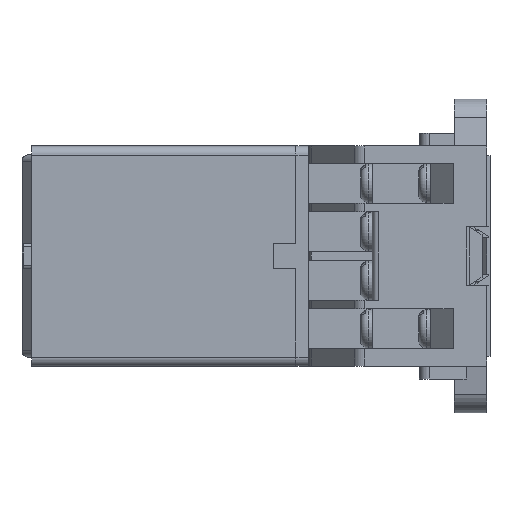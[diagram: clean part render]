
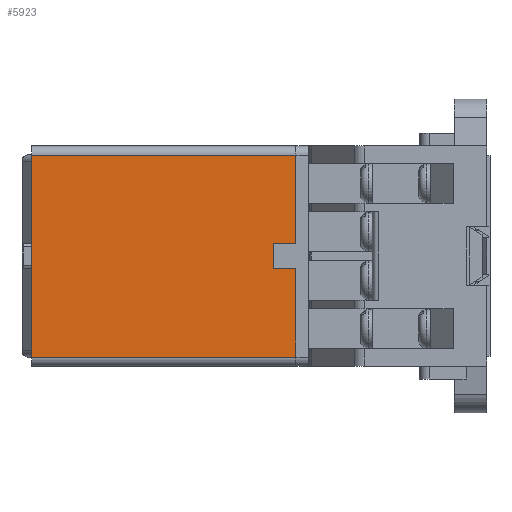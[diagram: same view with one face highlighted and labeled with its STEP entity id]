
A CAD part, left-side view. The second image highlights one B-rep face of the part: STEP entity #5923.
In plain terms, the highlighted planar face has unit normal (-1, 0, 0) as drawn and (1, 0, 0) by its records, which use the part's own axes.
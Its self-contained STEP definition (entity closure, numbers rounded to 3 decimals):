
#5923=ADVANCED_FACE('',(#17315),#17317,.T.);
#17315=FACE_BOUND('',#17316,.T.);
#17316=EDGE_LOOP('',(#26286,#26287,#26288,#26289,#26290,#26291,#26292,#26293));
#17317=PLANE('',#17318);
#17318=AXIS2_PLACEMENT_3D('',#17319,#17320,#17321);
#17319=CARTESIAN_POINT('',(17.5,44.3,-15.6));
#17320=DIRECTION('',(1.,0.,0.));
#17321=DIRECTION('',(0.,0.,1.));
#26286=ORIENTED_EDGE('',*,*,#32314,.T.);
#26287=ORIENTED_EDGE('',*,*,#32303,.F.);
#26288=ORIENTED_EDGE('',*,*,#32333,.F.);
#26289=ORIENTED_EDGE('',*,*,#32334,.T.);
#26290=ORIENTED_EDGE('',*,*,#32335,.T.);
#26291=ORIENTED_EDGE('',*,*,#32295,.F.);
#26292=ORIENTED_EDGE('',*,*,#32318,.T.);
#26293=ORIENTED_EDGE('',*,*,#32316,.T.);
#32295=EDGE_CURVE('',#37075,#37077,#37078,.T.);
#32303=EDGE_CURVE('',#37091,#37093,#37094,.T.);
#32314=EDGE_CURVE('',#37109,#37093,#37110,.F.);
#32316=EDGE_CURVE('',#37112,#37109,#37113,.F.);
#32318=EDGE_CURVE('',#37075,#37112,#37115,.F.);
#32333=EDGE_CURVE('',#37140,#37091,#37141,.T.);
#32334=EDGE_CURVE('',#37140,#37142,#37143,.T.);
#32335=EDGE_CURVE('',#37142,#37077,#37144,.T.);
#37075=VERTEX_POINT('',#46581);
#37077=VERTEX_POINT('',#46585);
#37078=LINE('',#46586,#46587);
#37091=VERTEX_POINT('',#46616);
#37093=VERTEX_POINT('',#46621);
#37094=LINE('',#46622,#46623);
#37109=VERTEX_POINT('',#46663);
#37110=LINE('',#46664,#46665);
#37112=VERTEX_POINT('',#46670);
#37113=LINE('',#46671,#46672);
#37115=LINE('',#46677,#46678);
#37140=VERTEX_POINT('',#46734);
#37141=LINE('',#46735,#46736);
#37142=VERTEX_POINT('',#46738);
#37143=LINE('',#46739,#46740);
#37144=LINE('',#46742,#46743);
#46581=CARTESIAN_POINT('',(17.5,3.5,2.));
#46585=CARTESIAN_POINT('',(17.5,3.5,15.6));
#46586=CARTESIAN_POINT('',(17.5,3.5,2.));
#46587=VECTOR('',#46588,1.);
#46588=DIRECTION('',(0.,0.,1.));
#46616=CARTESIAN_POINT('',(17.5,3.5,-15.6));
#46621=CARTESIAN_POINT('',(17.5,3.5,-2.));
#46622=CARTESIAN_POINT('',(17.5,3.5,-15.6));
#46623=VECTOR('',#46624,1.);
#46624=DIRECTION('',(0.,0.,1.));
#46663=CARTESIAN_POINT('',(17.5,7.017,-2.));
#46664=CARTESIAN_POINT('',(17.5,3.5,-2.));
#46665=VECTOR('',#46666,1.);
#46666=DIRECTION('',(0.,1.,0.));
#46670=CARTESIAN_POINT('',(17.5,7.017,2.));
#46671=CARTESIAN_POINT('',(17.5,7.017,-2.));
#46672=VECTOR('',#46673,1.);
#46673=DIRECTION('',(0.,0.,1.));
#46677=CARTESIAN_POINT('',(17.5,7.017,2.));
#46678=VECTOR('',#46679,1.);
#46679=DIRECTION('',(0.,-1.,0.));
#46734=CARTESIAN_POINT('',(17.5,44.3,-15.6));
#46735=CARTESIAN_POINT('',(17.5,44.3,-15.6));
#46736=VECTOR('',#46737,1.);
#46737=DIRECTION('',(0.,-1.,0.));
#46738=CARTESIAN_POINT('',(17.5,44.3,15.6));
#46739=CARTESIAN_POINT('',(17.5,44.3,-15.6));
#46740=VECTOR('',#46741,1.);
#46741=DIRECTION('',(0.,0.,1.));
#46742=CARTESIAN_POINT('',(17.5,44.3,15.6));
#46743=VECTOR('',#46744,1.);
#46744=DIRECTION('',(0.,-1.,0.));
